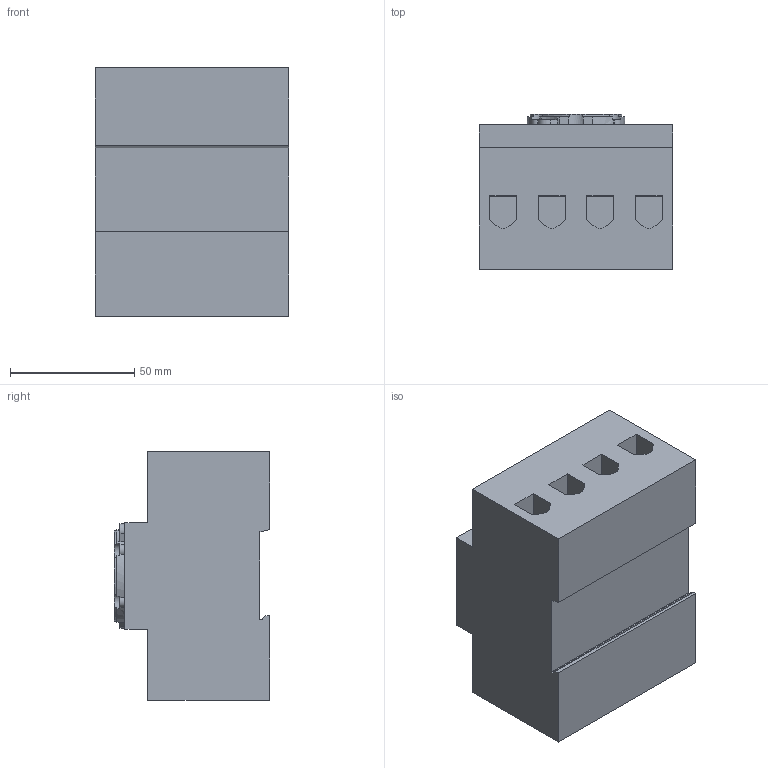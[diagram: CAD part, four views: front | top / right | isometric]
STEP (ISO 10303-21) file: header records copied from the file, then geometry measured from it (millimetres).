
FILE_DESCRIPTION (( 'STEP AP203' ), '1' );
FILE_NAME ('LTS85_100_125_VZV.STEP', '2014-03-14T10:20:12', ( '' ), ( '' ), 'SwSTEP 2.0', 'SolidWorks 2014', '' );
FILE_SCHEMA (( 'CONFIG_CONTROL_DESIGN' ));
Length unit declared in the file: millimetre
Products named in the file (3): LTS85_100_125_VZV; Schalterkörper LTS125 VZVH4; 8115-2
Assembly tree (2 placements, depth 2):
  LTS85_100_125_VZV
    8115-2
    Schalterkörper LTS125 VZVH4
Bounding box: 78 x 62.4 x 100 mm (x, y, z)
Volume: 366230.9 mm3; surface area: 54465 mm2
Topology: 2 solids, 2 shells, 377 faces, 1010 edges, 661 vertices
Faces by surface type: cylinder 200, plane 143, cone 30, torus 4
Entity records: 12316 total; most frequent: DIRECTION 2205, CARTESIAN_POINT 2101, ORIENTED_EDGE 2020, EDGE_CURVE 1010, AXIS2_PLACEMENT_3D 829, VERTEX_POINT 661, LINE 547, VECTOR 547
